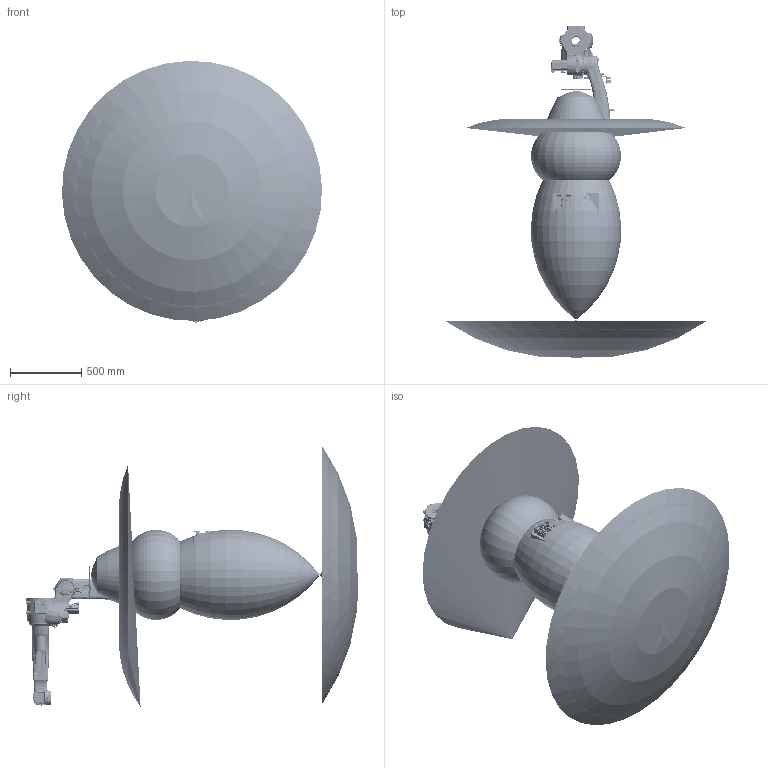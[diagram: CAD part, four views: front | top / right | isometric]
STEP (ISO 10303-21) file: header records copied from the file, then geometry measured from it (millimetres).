
FILE_DESCRIPTION (( 'STEP AP214' ), '1' );
FILE_NAME ('CRP-RH15-15-HP俋倛芞.STEP', '2025-03-18T01:16:00', ( '' ), ( '' ), 'SwSTEP 2.0', 'SolidWorks 2021', '' );
FILE_SCHEMA (( 'AUTOMOTIVE_DESIGN' ));
Length unit declared in the file: millimetre
Products named in the file (9): 堍雄毓峓; 藺傷楊擘; CR15C0300 湮旋郪璃; CR15C0400 紵窒郪璃; CR15C0600 勂窒郪璃; CR15C0200 殈窒郪璃; CRP-RH15-15-HP俋倛芞; CR15C0100 菁釱郪璃; CR15C0500 苤旋郪璃
Assembly tree (8 placements, depth 2):
  CRP-RH15-15-HP俋倛芞
    CR15C0100 菁釱郪璃
    CR15C0200 殈窒郪璃
    CR15C0300 湮旋郪璃
    CR15C0400 紵窒郪璃
    CR15C0500 苤旋郪璃
    CR15C0600 勂窒郪璃
    堍雄毓峓
    藺傷楊擘
Bounding box: 1824.58 x 2329.56 x 1840.35 mm (x, y, z)
Volume: 1132702600.7 mm3; surface area: 15562137.5 mm2
Topology: 3 solids, 675 shells, 9084 faces, 30463 edges, 21085 vertices
Faces by surface type: plane 3346, cylinder 2551, bspline 1835, cone 764, torus 550, sphere 38
Full cylindrical faces by diameter (mm): 0.8 x2, 1.8 x18, 2 x20, 2.382 x16, 2.5 x7, 3 x8, 3.242 x24, 3.3 x8, 3.5 x9, 4 x24, 4.2 x2, 4.4 x4, 4.5 x8, 4.7 x40, 4.8 x9, 5 x33, 5.5 x15, 6 x49, 6.2 x1, 6.5 x1, 6.6 x1, 6.7 x16, 6.8 x2, 7 x55, 8 x52, 8.5 x85, 9 x25, 9.4 x1, 9.8 x2, 10 x98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
Entity records: 913310 total; most frequent: CARTESIAN_POINT 584183, ORIENTED_EDGE 44479, DIRECTION 40844, EDGE_CURVE 28310, VERTEX_POINT 20659, AXIS2_PLACEMENT_3D 15142, EDGE_LOOP 12029, VECTOR 10560
